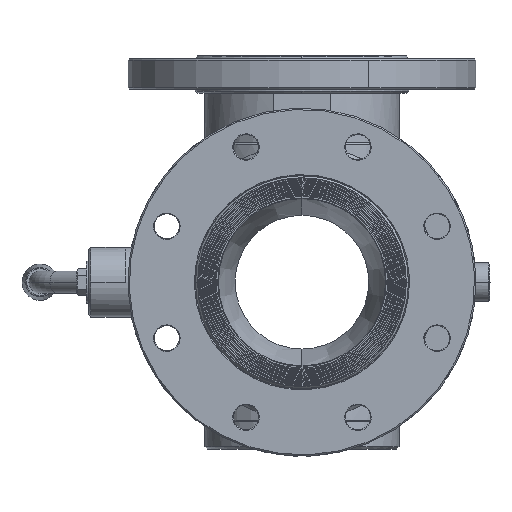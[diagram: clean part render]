
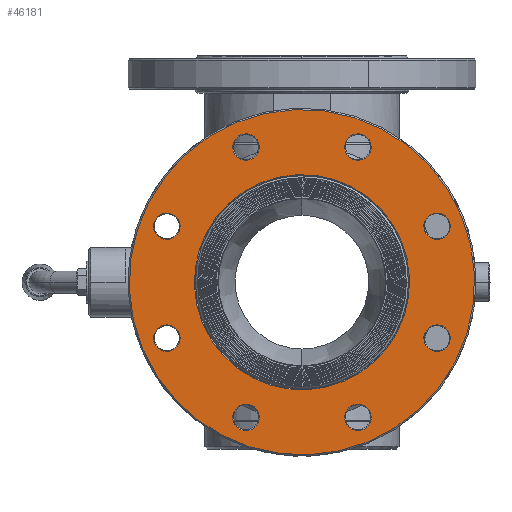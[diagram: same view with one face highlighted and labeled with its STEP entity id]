
A CAD part, left-side view. The second image highlights one B-rep face of the part: STEP entity #46181.
In plain terms, the highlighted planar face has unit normal (-1, 0, 0).
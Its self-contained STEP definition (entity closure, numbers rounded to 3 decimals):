
#1274=CARTESIAN_POINT('',(-160.5,0.,0.));
#1275=DIRECTION('',(-1.,0.,0.));
#1276=DIRECTION('',(0.,0.383,0.924));
#1277=AXIS2_PLACEMENT_3D('',#1274,#1275,#1276);
#1282=CARTESIAN_POINT('',(-160.5,0.,0.));
#1283=DIRECTION('',(-1.,0.,0.));
#1284=DIRECTION('',(0.,-0.383,-0.924));
#1285=AXIS2_PLACEMENT_3D('',#1282,#1283,#1284);
#1290=CARTESIAN_POINT('',(-160.5,0.,0.));
#1291=DIRECTION('',(-1.,0.,0.));
#1292=DIRECTION('',(0.,0.383,0.924));
#1293=AXIS2_PLACEMENT_3D('',#1290,#1291,#1292);
#1298=CARTESIAN_POINT('',(-160.5,0.,0.));
#1299=DIRECTION('',(-1.,0.,0.));
#1300=DIRECTION('',(0.,-0.383,-0.924));
#1301=AXIS2_PLACEMENT_3D('',#1298,#1299,#1300);
#1306=CARTESIAN_POINT('',(-160.5,40.182,-97.007));
#1307=DIRECTION('',(1.,0.,0.));
#1308=DIRECTION('',(0.,-0.383,-0.924));
#1309=AXIS2_PLACEMENT_3D('',#1306,#1307,#1308);
#1314=CARTESIAN_POINT('',(-160.5,40.182,-97.007));
#1315=DIRECTION('',(1.,0.,0.));
#1316=DIRECTION('',(0.,0.383,0.924));
#1317=AXIS2_PLACEMENT_3D('',#1314,#1315,#1316);
#1322=CARTESIAN_POINT('',(-160.5,-40.182,-97.007));
#1323=DIRECTION('',(1.,0.,0.));
#1324=DIRECTION('',(0.,-0.383,-0.924));
#1325=AXIS2_PLACEMENT_3D('',#1322,#1323,#1324);
#1330=CARTESIAN_POINT('',(-160.5,-40.182,-97.007));
#1331=DIRECTION('',(1.,0.,0.));
#1332=DIRECTION('',(0.,0.383,0.924));
#1333=AXIS2_PLACEMENT_3D('',#1330,#1331,#1332);
#1338=CARTESIAN_POINT('',(-160.5,-97.007,-40.182));
#1339=DIRECTION('',(1.,0.,0.));
#1340=DIRECTION('',(0.,-0.383,-0.924));
#1341=AXIS2_PLACEMENT_3D('',#1338,#1339,#1340);
#1346=CARTESIAN_POINT('',(-160.5,-97.007,-40.182));
#1347=DIRECTION('',(1.,0.,0.));
#1348=DIRECTION('',(0.,0.383,0.924));
#1349=AXIS2_PLACEMENT_3D('',#1346,#1347,#1348);
#1354=CARTESIAN_POINT('',(-160.5,-97.007,40.182));
#1355=DIRECTION('',(1.,0.,0.));
#1356=DIRECTION('',(0.,-0.383,-0.924));
#1357=AXIS2_PLACEMENT_3D('',#1354,#1355,#1356);
#1362=CARTESIAN_POINT('',(-160.5,-97.007,40.182));
#1363=DIRECTION('',(1.,0.,0.));
#1364=DIRECTION('',(0.,0.383,0.924));
#1365=AXIS2_PLACEMENT_3D('',#1362,#1363,#1364);
#1370=CARTESIAN_POINT('',(-160.5,-40.182,97.007));
#1371=DIRECTION('',(1.,0.,0.));
#1372=DIRECTION('',(0.,-0.383,-0.924));
#1373=AXIS2_PLACEMENT_3D('',#1370,#1371,#1372);
#1378=CARTESIAN_POINT('',(-160.5,-40.182,97.007));
#1379=DIRECTION('',(1.,0.,0.));
#1380=DIRECTION('',(0.,0.383,0.924));
#1381=AXIS2_PLACEMENT_3D('',#1378,#1379,#1380);
#1386=CARTESIAN_POINT('',(-160.5,40.182,97.007));
#1387=DIRECTION('',(1.,0.,0.));
#1388=DIRECTION('',(0.,-0.383,-0.924));
#1389=AXIS2_PLACEMENT_3D('',#1386,#1387,#1388);
#1394=CARTESIAN_POINT('',(-160.5,40.182,97.007));
#1395=DIRECTION('',(1.,0.,0.));
#1396=DIRECTION('',(0.,0.383,0.924));
#1397=AXIS2_PLACEMENT_3D('',#1394,#1395,#1396);
#1402=CARTESIAN_POINT('',(-160.5,97.007,40.182));
#1403=DIRECTION('',(1.,0.,0.));
#1404=DIRECTION('',(0.,-0.383,-0.924));
#1405=AXIS2_PLACEMENT_3D('',#1402,#1403,#1404);
#1410=CARTESIAN_POINT('',(-160.5,97.007,40.182));
#1411=DIRECTION('',(1.,0.,0.));
#1412=DIRECTION('',(0.,0.383,0.924));
#1413=AXIS2_PLACEMENT_3D('',#1410,#1411,#1412);
#1418=CARTESIAN_POINT('',(-160.5,97.007,-40.182));
#1419=DIRECTION('',(1.,0.,0.));
#1420=DIRECTION('',(0.,-0.383,-0.924));
#1421=AXIS2_PLACEMENT_3D('',#1418,#1419,#1420);
#1426=CARTESIAN_POINT('',(-160.5,97.007,-40.182));
#1427=DIRECTION('',(1.,0.,0.));
#1428=DIRECTION('',(0.,0.383,0.924));
#1429=AXIS2_PLACEMENT_3D('',#1426,#1427,#1428);
#44528=CARTESIAN_POINT('',(-160.5,29.562,71.37));
#44529=CARTESIAN_POINT('',(-160.5,-29.562,-71.37));
#44530=VERTEX_POINT('',#44528);
#44531=VERTEX_POINT('',#44529);
#44544=CARTESIAN_POINT('',(-160.5,47.453,114.561));
#44545=CARTESIAN_POINT('',(-160.5,-47.453,-114.561));
#44546=VERTEX_POINT('',#44544);
#44547=VERTEX_POINT('',#44545);
#44616=CARTESIAN_POINT('',(-160.5,36.547,-105.784));
#44617=CARTESIAN_POINT('',(-160.5,43.817,-88.231));
#44618=VERTEX_POINT('',#44616);
#44619=VERTEX_POINT('',#44617);
#44624=CARTESIAN_POINT('',(-160.5,-43.817,-105.784));
#44625=CARTESIAN_POINT('',(-160.5,-36.547,-88.231));
#44626=VERTEX_POINT('',#44624);
#44627=VERTEX_POINT('',#44625);
#44632=CARTESIAN_POINT('',(-160.5,-100.643,-48.958));
#44633=CARTESIAN_POINT('',(-160.5,-93.372,-31.405));
#44634=VERTEX_POINT('',#44632);
#44635=VERTEX_POINT('',#44633);
#44640=CARTESIAN_POINT('',(-160.5,-100.643,31.405));
#44641=CARTESIAN_POINT('',(-160.5,-93.372,48.958));
#44642=VERTEX_POINT('',#44640);
#44643=VERTEX_POINT('',#44641);
#44648=CARTESIAN_POINT('',(-160.5,-43.817,88.231));
#44649=CARTESIAN_POINT('',(-160.5,-36.547,105.784));
#44650=VERTEX_POINT('',#44648);
#44651=VERTEX_POINT('',#44649);
#44656=CARTESIAN_POINT('',(-160.5,36.547,88.231));
#44657=CARTESIAN_POINT('',(-160.5,43.817,105.784));
#44658=VERTEX_POINT('',#44656);
#44659=VERTEX_POINT('',#44657);
#44664=CARTESIAN_POINT('',(-160.5,93.372,31.405));
#44665=CARTESIAN_POINT('',(-160.5,100.643,48.958));
#44666=VERTEX_POINT('',#44664);
#44667=VERTEX_POINT('',#44665);
#44672=CARTESIAN_POINT('',(-160.5,93.372,-48.958));
#44673=CARTESIAN_POINT('',(-160.5,100.643,-31.405));
#44674=VERTEX_POINT('',#44672);
#44675=VERTEX_POINT('',#44673);
#46117=CARTESIAN_POINT('',(-160.5,0.,0.));
#46118=DIRECTION('',(-1.,0.,0.));
#46119=DIRECTION('',(0.,-0.383,-0.924));
#46120=AXIS2_PLACEMENT_3D('',#46117,#46118,#46119);
#46121=PLANE('',#46120);
#46122=ORIENTED_EDGE('',*,*,#46107,.F.);
#46124=ORIENTED_EDGE('',*,*,#46123,.F.);
#46125=EDGE_LOOP('',(#46122,#46124));
#46126=FACE_OUTER_BOUND('',#46125,.F.);
#46128=ORIENTED_EDGE('',*,*,#46127,.T.);
#46130=ORIENTED_EDGE('',*,*,#46129,.T.);
#46131=EDGE_LOOP('',(#46128,#46130));
#46132=FACE_BOUND('',#46131,.F.);
#46134=ORIENTED_EDGE('',*,*,#46133,.F.);
#46136=ORIENTED_EDGE('',*,*,#46135,.F.);
#46137=EDGE_LOOP('',(#46134,#46136));
#46138=FACE_BOUND('',#46137,.F.);
#46140=ORIENTED_EDGE('',*,*,#46139,.F.);
#46142=ORIENTED_EDGE('',*,*,#46141,.F.);
#46143=EDGE_LOOP('',(#46140,#46142));
#46144=FACE_BOUND('',#46143,.F.);
#46146=ORIENTED_EDGE('',*,*,#46145,.F.);
#46148=ORIENTED_EDGE('',*,*,#46147,.F.);
#46149=EDGE_LOOP('',(#46146,#46148));
#46150=FACE_BOUND('',#46149,.F.);
#46152=ORIENTED_EDGE('',*,*,#46151,.F.);
#46154=ORIENTED_EDGE('',*,*,#46153,.F.);
#46155=EDGE_LOOP('',(#46152,#46154));
#46156=FACE_BOUND('',#46155,.F.);
#46158=ORIENTED_EDGE('',*,*,#46157,.F.);
#46160=ORIENTED_EDGE('',*,*,#46159,.F.);
#46161=EDGE_LOOP('',(#46158,#46160));
#46162=FACE_BOUND('',#46161,.F.);
#46164=ORIENTED_EDGE('',*,*,#46163,.F.);
#46166=ORIENTED_EDGE('',*,*,#46165,.F.);
#46167=EDGE_LOOP('',(#46164,#46166));
#46168=FACE_BOUND('',#46167,.F.);
#46170=ORIENTED_EDGE('',*,*,#46169,.F.);
#46172=ORIENTED_EDGE('',*,*,#46171,.F.);
#46173=EDGE_LOOP('',(#46170,#46172));
#46174=FACE_BOUND('',#46173,.F.);
#46176=ORIENTED_EDGE('',*,*,#46175,.F.);
#46178=ORIENTED_EDGE('',*,*,#46177,.F.);
#46179=EDGE_LOOP('',(#46176,#46178));
#46180=FACE_BOUND('',#46179,.F.);
#46181=ADVANCED_FACE('',(#46126,#46132,#46138,#46144,#46150,#46156,#46162,
#46168,#46174,#46180),#46121,.T.);
#1278=CIRCLE('',#1277,124.);
#1286=CIRCLE('',#1285,124.);
#1294=CIRCLE('',#1293,77.25);
#1302=CIRCLE('',#1301,77.25);
#1310=CIRCLE('',#1309,9.499);
#1318=CIRCLE('',#1317,9.499);
#1326=CIRCLE('',#1325,9.499);
#1334=CIRCLE('',#1333,9.499);
#1342=CIRCLE('',#1341,9.499);
#1350=CIRCLE('',#1349,9.499);
#1358=CIRCLE('',#1357,9.499);
#1366=CIRCLE('',#1365,9.499);
#1374=CIRCLE('',#1373,9.499);
#1382=CIRCLE('',#1381,9.499);
#1390=CIRCLE('',#1389,9.499);
#1398=CIRCLE('',#1397,9.499);
#1406=CIRCLE('',#1405,9.499);
#1414=CIRCLE('',#1413,9.499);
#1422=CIRCLE('',#1421,9.499);
#1430=CIRCLE('',#1429,9.499);
#46107=EDGE_CURVE('',#44546,#44547,#1278,.T.);
#46123=EDGE_CURVE('',#44547,#44546,#1286,.T.);
#46127=EDGE_CURVE('',#44530,#44531,#1294,.T.);
#46129=EDGE_CURVE('',#44531,#44530,#1302,.T.);
#46133=EDGE_CURVE('',#44618,#44619,#1310,.T.);
#46135=EDGE_CURVE('',#44619,#44618,#1318,.T.);
#46139=EDGE_CURVE('',#44626,#44627,#1326,.T.);
#46141=EDGE_CURVE('',#44627,#44626,#1334,.T.);
#46145=EDGE_CURVE('',#44634,#44635,#1342,.T.);
#46147=EDGE_CURVE('',#44635,#44634,#1350,.T.);
#46151=EDGE_CURVE('',#44642,#44643,#1358,.T.);
#46153=EDGE_CURVE('',#44643,#44642,#1366,.T.);
#46157=EDGE_CURVE('',#44650,#44651,#1374,.T.);
#46159=EDGE_CURVE('',#44651,#44650,#1382,.T.);
#46163=EDGE_CURVE('',#44658,#44659,#1390,.T.);
#46165=EDGE_CURVE('',#44659,#44658,#1398,.T.);
#46169=EDGE_CURVE('',#44666,#44667,#1406,.T.);
#46171=EDGE_CURVE('',#44667,#44666,#1414,.T.);
#46175=EDGE_CURVE('',#44674,#44675,#1422,.T.);
#46177=EDGE_CURVE('',#44675,#44674,#1430,.T.);
